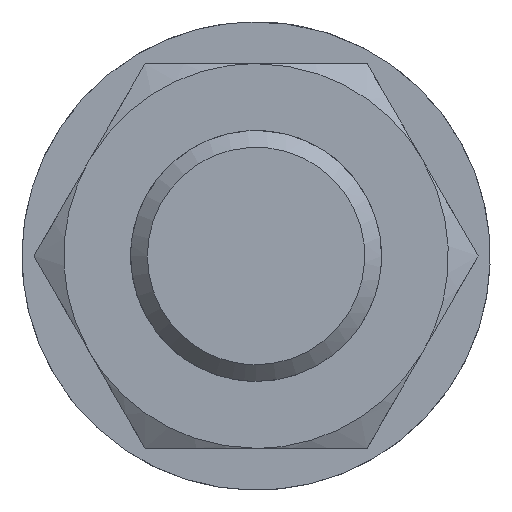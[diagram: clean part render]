
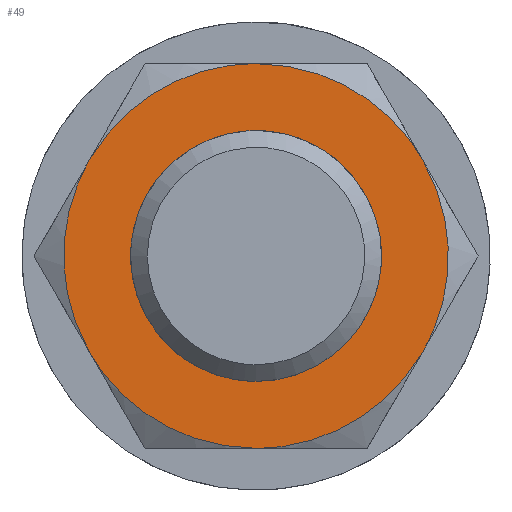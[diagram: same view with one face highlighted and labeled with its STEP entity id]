
A CAD part, left-side view. The second image highlights one B-rep face of the part: STEP entity #49.
In plain terms, the highlighted planar face has unit normal (-1, 0, 0).
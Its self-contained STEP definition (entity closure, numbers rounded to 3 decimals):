
#40=FACE_BOUND('',#138,.T.);
#49=ADVANCED_FACE('',(#92,#40),#658,.T.);
#92=FACE_OUTER_BOUND('',#137,.T.);
#137=EDGE_LOOP('',(#202,#203,#204,#205,#206,#207));
#138=EDGE_LOOP('',(#208,#209));
#202=ORIENTED_EDGE('',*,*,#403,.F.);
#203=ORIENTED_EDGE('',*,*,#405,.F.);
#204=ORIENTED_EDGE('',*,*,#406,.F.);
#205=ORIENTED_EDGE('',*,*,#404,.F.);
#206=ORIENTED_EDGE('',*,*,#402,.F.);
#207=ORIENTED_EDGE('',*,*,#401,.F.);
#208=ORIENTED_EDGE('',*,*,#391,.F.);
#209=ORIENTED_EDGE('',*,*,#389,.F.);
#389=EDGE_CURVE('',#604,#594,#515,.T.);
#391=EDGE_CURVE('',#594,#604,#516,.T.);
#401=EDGE_CURVE('',#598,#599,#524,.T.);
#402=EDGE_CURVE('',#599,#603,#525,.T.);
#403=EDGE_CURVE('',#600,#598,#526,.T.);
#404=EDGE_CURVE('',#603,#602,#527,.T.);
#405=EDGE_CURVE('',#601,#600,#528,.T.);
#406=EDGE_CURVE('',#602,#601,#529,.T.);
#515=(
BOUNDED_CURVE()
B_SPLINE_CURVE(2,(#1161,#1162,#1163,#1164,#1165),.UNSPECIFIED.,.F.,.F.)
B_SPLINE_CURVE_WITH_KNOTS((3,2,3),(47.124,70.686,94.247),
 .UNSPECIFIED.)
CURVE()
GEOMETRIC_REPRESENTATION_ITEM()
RATIONAL_B_SPLINE_CURVE((1.,0.707,1.,0.707,1.))
REPRESENTATION_ITEM('')
);
#516=(
BOUNDED_CURVE()
B_SPLINE_CURVE(2,(#1168,#1169,#1170,#1171,#1172),.UNSPECIFIED.,.F.,.F.)
B_SPLINE_CURVE_WITH_KNOTS((3,2,3),(0.,23.562,47.124),
 .UNSPECIFIED.)
CURVE()
GEOMETRIC_REPRESENTATION_ITEM()
RATIONAL_B_SPLINE_CURVE((1.,0.707,1.,0.707,1.))
REPRESENTATION_ITEM('')
);
#524=(
BOUNDED_CURVE()
B_SPLINE_CURVE(2,(#1210,#1211,#1212),.UNSPECIFIED.,.F.,.F.)
B_SPLINE_CURVE_WITH_KNOTS((3,3),(0.,24.086),.UNSPECIFIED.)
CURVE()
GEOMETRIC_REPRESENTATION_ITEM()
RATIONAL_B_SPLINE_CURVE((1.,0.866,1.))
REPRESENTATION_ITEM('')
);
#525=(
BOUNDED_CURVE()
B_SPLINE_CURVE(2,(#1213,#1214,#1215),.UNSPECIFIED.,.F.,.F.)
B_SPLINE_CURVE_WITH_KNOTS((3,3),(0.,24.086),.UNSPECIFIED.)
CURVE()
GEOMETRIC_REPRESENTATION_ITEM()
RATIONAL_B_SPLINE_CURVE((1.,0.866,1.))
REPRESENTATION_ITEM('')
);
#526=(
BOUNDED_CURVE()
B_SPLINE_CURVE(2,(#1216,#1217,#1218),.UNSPECIFIED.,.F.,.F.)
B_SPLINE_CURVE_WITH_KNOTS((3,3),(0.,24.086),.UNSPECIFIED.)
CURVE()
GEOMETRIC_REPRESENTATION_ITEM()
RATIONAL_B_SPLINE_CURVE((1.,0.866,1.))
REPRESENTATION_ITEM('')
);
#527=(
BOUNDED_CURVE()
B_SPLINE_CURVE(2,(#1219,#1220,#1221),.UNSPECIFIED.,.F.,.F.)
B_SPLINE_CURVE_WITH_KNOTS((3,3),(0.,24.086),.UNSPECIFIED.)
CURVE()
GEOMETRIC_REPRESENTATION_ITEM()
RATIONAL_B_SPLINE_CURVE((1.,0.866,1.))
REPRESENTATION_ITEM('')
);
#528=(
BOUNDED_CURVE()
B_SPLINE_CURVE(2,(#1222,#1223,#1224),.UNSPECIFIED.,.F.,.F.)
B_SPLINE_CURVE_WITH_KNOTS((3,3),(0.,24.086),.UNSPECIFIED.)
CURVE()
GEOMETRIC_REPRESENTATION_ITEM()
RATIONAL_B_SPLINE_CURVE((1.,0.866,1.))
REPRESENTATION_ITEM('')
);
#529=(
BOUNDED_CURVE()
B_SPLINE_CURVE(2,(#1225,#1226,#1227),.UNSPECIFIED.,.F.,.F.)
B_SPLINE_CURVE_WITH_KNOTS((3,3),(0.,24.086),.UNSPECIFIED.)
CURVE()
GEOMETRIC_REPRESENTATION_ITEM()
RATIONAL_B_SPLINE_CURVE((1.,0.866,1.))
REPRESENTATION_ITEM('')
);
#594=VERTEX_POINT('',#1129);
#598=VERTEX_POINT('',#1133);
#599=VERTEX_POINT('',#1134);
#600=VERTEX_POINT('',#1135);
#601=VERTEX_POINT('',#1136);
#602=VERTEX_POINT('',#1137);
#603=VERTEX_POINT('',#1138);
#604=VERTEX_POINT('',#1139);
#658=PLANE('',#772);
#772=AXIS2_PLACEMENT_3D('',#886,#798,$);
#798=DIRECTION('',(-1.,0.,0.));
#886=CARTESIAN_POINT('',(38.667,-31.99,27.72));
#1129=CARTESIAN_POINT('',(38.667,0.,-15.));
#1133=CARTESIAN_POINT('',(38.667,-19.919,11.5));
#1134=CARTESIAN_POINT('',(38.667,-19.919,-11.5));
#1135=CARTESIAN_POINT('',(38.667,0.,23.));
#1136=CARTESIAN_POINT('',(38.667,19.919,11.5));
#1137=CARTESIAN_POINT('',(38.667,19.919,-11.5));
#1138=CARTESIAN_POINT('',(38.667,0.,-23.));
#1139=CARTESIAN_POINT('',(38.667,0.,15.));
#1161=CARTESIAN_POINT('',(38.667,0.,15.));
#1162=CARTESIAN_POINT('',(38.667,15.,15.));
#1163=CARTESIAN_POINT('',(38.667,15.,0.));
#1164=CARTESIAN_POINT('',(38.667,15.,-15.));
#1165=CARTESIAN_POINT('',(38.667,0.,-15.));
#1168=CARTESIAN_POINT('',(38.667,0.,-15.));
#1169=CARTESIAN_POINT('',(38.667,-15.,-15.));
#1170=CARTESIAN_POINT('',(38.667,-15.,0.));
#1171=CARTESIAN_POINT('',(38.667,-15.,15.));
#1172=CARTESIAN_POINT('',(38.667,0.,15.));
#1210=CARTESIAN_POINT('',(38.667,-19.919,11.5));
#1211=CARTESIAN_POINT('',(38.667,-26.558,0.));
#1212=CARTESIAN_POINT('',(38.667,-19.919,-11.5));
#1213=CARTESIAN_POINT('',(38.667,-19.919,-11.5));
#1214=CARTESIAN_POINT('',(38.667,-13.279,-23.));
#1215=CARTESIAN_POINT('',(38.667,0.,-23.));
#1216=CARTESIAN_POINT('',(38.667,0.,23.));
#1217=CARTESIAN_POINT('',(38.667,-13.279,23.));
#1218=CARTESIAN_POINT('',(38.667,-19.919,11.5));
#1219=CARTESIAN_POINT('',(38.667,0.,-23.));
#1220=CARTESIAN_POINT('',(38.667,13.279,-23.));
#1221=CARTESIAN_POINT('',(38.667,19.919,-11.5));
#1222=CARTESIAN_POINT('',(38.667,19.919,11.5));
#1223=CARTESIAN_POINT('',(38.667,13.279,23.));
#1224=CARTESIAN_POINT('',(38.667,0.,23.));
#1225=CARTESIAN_POINT('',(38.667,19.919,-11.5));
#1226=CARTESIAN_POINT('',(38.667,26.558,0.));
#1227=CARTESIAN_POINT('',(38.667,19.919,11.5));
